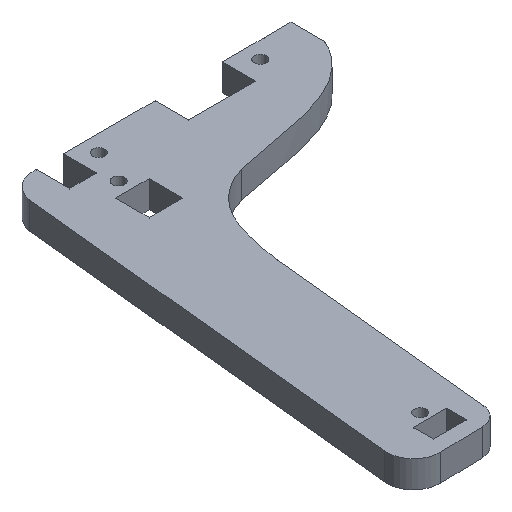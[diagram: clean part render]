
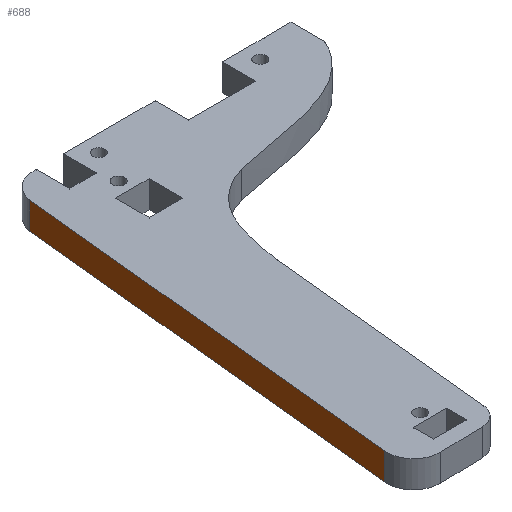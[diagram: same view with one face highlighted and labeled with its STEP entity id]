
A CAD part, isometric view. The second image highlights one B-rep face of the part: STEP entity #688.
In plain terms, the highlighted planar face has unit normal (-0.995, 0.101, 0).
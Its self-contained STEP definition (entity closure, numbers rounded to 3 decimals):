
#44=PLANE('',#751);
#77=FACE_OUTER_BOUND('',#111,.T.);
#111=EDGE_LOOP('',(#556,#557,#558,#559));
#185=LINE('',#1142,#261);
#186=LINE('',#1145,#262);
#187=LINE('',#1147,#263);
#188=LINE('',#1148,#264);
#261=VECTOR('',#893,10.);
#262=VECTOR('',#896,10.);
#263=VECTOR('',#897,10.);
#264=VECTOR('',#898,10.);
#350=VERTEX_POINT('',#1138);
#351=VERTEX_POINT('',#1140);
#352=VERTEX_POINT('',#1144);
#353=VERTEX_POINT('',#1146);
#437=EDGE_CURVE('',#350,#351,#185,.T.);
#438=EDGE_CURVE('',#352,#350,#186,.T.);
#439=EDGE_CURVE('',#353,#351,#187,.T.);
#440=EDGE_CURVE('',#352,#353,#188,.T.);
#556=ORIENTED_EDGE('',*,*,#438,.T.);
#557=ORIENTED_EDGE('',*,*,#437,.T.);
#558=ORIENTED_EDGE('',*,*,#439,.F.);
#559=ORIENTED_EDGE('',*,*,#440,.F.);
#688=ADVANCED_FACE('',(#77),#44,.T.);
#751=AXIS2_PLACEMENT_3D('',#1143,#894,#895);
#893=DIRECTION('',(0.,0.,1.));
#894=DIRECTION('center_axis',(-0.995,0.101,0.));
#895=DIRECTION('ref_axis',(-0.101,-0.995,0.));
#896=DIRECTION('',(-0.101,-0.995,0.));
#897=DIRECTION('',(-0.101,-0.995,0.));
#898=DIRECTION('',(0.,0.,1.));
#1138=CARTESIAN_POINT('',(-19.39,-34.204,0.));
#1140=CARTESIAN_POINT('',(-19.39,-34.204,4.));
#1142=CARTESIAN_POINT('',(-19.39,-34.204,0.));
#1143=CARTESIAN_POINT('Origin',(-13.446,24.513,0.));
#1144=CARTESIAN_POINT('',(-13.446,24.513,0.));
#1145=CARTESIAN_POINT('',(-13.446,24.513,0.));
#1146=CARTESIAN_POINT('',(-13.446,24.513,4.));
#1147=CARTESIAN_POINT('',(-13.446,24.513,4.));
#1148=CARTESIAN_POINT('',(-13.446,24.513,0.));
